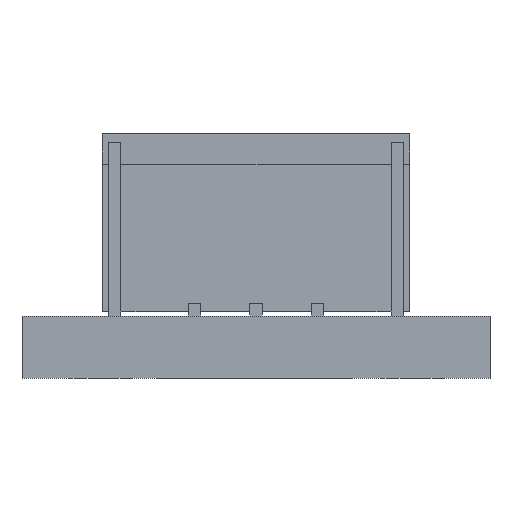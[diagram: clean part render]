
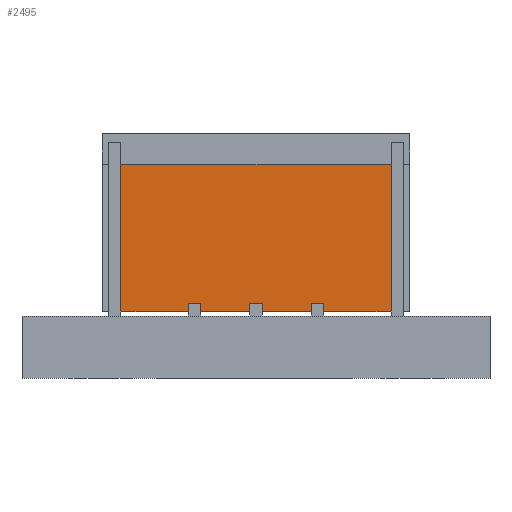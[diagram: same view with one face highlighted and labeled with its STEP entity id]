
A CAD part, front view. The second image highlights one B-rep face of the part: STEP entity #2495.
In plain terms, the highlighted planar face has unit normal (0, -1, 0).
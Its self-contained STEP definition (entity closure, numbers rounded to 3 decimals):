
#893 = CARTESIAN_POINT ( 'NONE',  ( 4.91, 5.368, 1.216 ) ) ;
#955 = CARTESIAN_POINT ( 'NONE',  ( 4.71, 5.368, 1.086 ) ) ;
#996 = CARTESIAN_POINT ( 'NONE',  ( 2.91, 5.368, 1.086 ) ) ;
#1133 = DIRECTION ( 'NONE',  ( 0., 0., -1. ) ) ;
#1411 = EDGE_CURVE ( 'NONE', #24887, #8399, #17609, .T. ) ;
#1680 = VERTEX_POINT ( 'NONE', #16504 ) ;
#1856 = VERTEX_POINT ( 'NONE', #7402 ) ;
#2303 = CARTESIAN_POINT ( 'NONE',  ( 2.71, 5.368, 1.086 ) ) ;
#2373 = CARTESIAN_POINT ( 'NONE',  ( 6.31, 5.368, 1.086 ) ) ;
#2406 = VERTEX_POINT ( 'NONE', #15395 ) ;
#2495 = ADVANCED_FACE ( 'NONE', ( #6924 ), #15676, .F. ) ;
#2551 = VECTOR ( 'NONE', #17227, 1000. ) ;
#2694 = CARTESIAN_POINT ( 'NONE',  ( 2.91, 5.368, 1.216 ) ) ;
#2968 = VERTEX_POINT ( 'NONE', #19919 ) ;
#3129 = CARTESIAN_POINT ( 'NONE',  ( 2.91, 5.368, 1.086 ) ) ;
#3303 = CARTESIAN_POINT ( 'NONE',  ( 3.91, 5.368, 1.216 ) ) ;
#3665 = ORIENTED_EDGE ( 'NONE', *, *, #1411, .F. ) ;
#3688 = CARTESIAN_POINT ( 'NONE',  ( 6.01, 5.368, 1.086 ) ) ;
#3821 = EDGE_CURVE ( 'NONE', #25372, #4529, #17507, .T. ) ;
#3884 = EDGE_CURVE ( 'NONE', #2406, #10162, #23652, .T. ) ;
#4529 = VERTEX_POINT ( 'NONE', #26048 ) ;
#4614 = ORIENTED_EDGE ( 'NONE', *, *, #8134, .T. ) ;
#4762 = ORIENTED_EDGE ( 'NONE', *, *, #3821, .T. ) ;
#5347 = VECTOR ( 'NONE', #11572, 1000. ) ;
#6003 = CARTESIAN_POINT ( 'NONE',  ( 4.91, 5.368, 1.216 ) ) ;
#6203 = EDGE_CURVE ( 'NONE', #8360, #1680, #27227, .T. ) ;
#6924 = FACE_OUTER_BOUND ( 'NONE', #18415, .T. ) ;
#7402 = CARTESIAN_POINT ( 'NONE',  ( 1.61, 5.368, 1.086 ) ) ;
#7482 = LINE ( 'NONE', #955, #25348 ) ;
#8069 = VECTOR ( 'NONE', #15506, 1000. ) ;
#8134 = EDGE_CURVE ( 'NONE', #24887, #2406, #26715, .T. ) ;
#8222 = ORIENTED_EDGE ( 'NONE', *, *, #27800, .T. ) ;
#8360 = VERTEX_POINT ( 'NONE', #15714 ) ;
#8399 = VERTEX_POINT ( 'NONE', #24280 ) ;
#8675 = EDGE_CURVE ( 'NONE', #1856, #19700, #13610, .T. ) ;
#9058 = EDGE_CURVE ( 'NONE', #2968, #1856, #12258, .T. ) ;
#9155 = ORIENTED_EDGE ( 'NONE', *, *, #12616, .F. ) ;
#9240 = VECTOR ( 'NONE', #11941, 1000. ) ;
#9248 = CARTESIAN_POINT ( 'NONE',  ( 2.71, 5.368, 1.216 ) ) ;
#9624 = DIRECTION ( 'NONE',  ( 0., 0., -1. ) ) ;
#9747 = DIRECTION ( 'NONE',  ( 0., 0., -1. ) ) ;
#9844 = VECTOR ( 'NONE', #1133, 1000. ) ;
#9845 = CARTESIAN_POINT ( 'NONE',  ( 4.91, 5.368, 1.086 ) ) ;
#9847 = LINE ( 'NONE', #893, #21037 ) ;
#9866 = VECTOR ( 'NONE', #24173, 1000. ) ;
#10162 = VERTEX_POINT ( 'NONE', #21030 ) ;
#10164 = DIRECTION ( 'NONE',  ( 1., 0., 0. ) ) ;
#10640 = VERTEX_POINT ( 'NONE', #6003 ) ;
#11572 = DIRECTION ( 'NONE',  ( 1., 0., 0. ) ) ;
#11627 = LINE ( 'NONE', #20373, #13916 ) ;
#11706 = ORIENTED_EDGE ( 'NONE', *, *, #23392, .T. ) ;
#11941 = DIRECTION ( 'NONE',  ( 0., 0., -1. ) ) ;
#12258 = LINE ( 'NONE', #20982, #14546 ) ;
#12476 = ORIENTED_EDGE ( 'NONE', *, *, #18512, .T. ) ;
#12492 = DIRECTION ( 'NONE',  ( 0., 0., -1. ) ) ;
#12616 = EDGE_CURVE ( 'NONE', #28134, #16706, #13269, .T. ) ;
#13269 = LINE ( 'NONE', #2694, #16117 ) ;
#13339 = CARTESIAN_POINT ( 'NONE',  ( 6.31, 5.368, 1.086 ) ) ;
#13411 = DIRECTION ( 'NONE',  ( -1., 0., 0. ) ) ;
#13565 = CARTESIAN_POINT ( 'NONE',  ( 4.71, 5.368, 1.216 ) ) ;
#13610 = LINE ( 'NONE', #22338, #5347 ) ;
#13825 = CARTESIAN_POINT ( 'NONE',  ( 3.71, 5.368, 1.086 ) ) ;
#13916 = VECTOR ( 'NONE', #19383, 1000. ) ;
#14306 = ORIENTED_EDGE ( 'NONE', *, *, #22441, .F. ) ;
#14546 = VECTOR ( 'NONE', #25545, 1000. ) ;
#14910 = ORIENTED_EDGE ( 'NONE', *, *, #3884, .T. ) ;
#15071 = DIRECTION ( 'NONE',  ( 1., 0., 0. ) ) ;
#15161 = VERTEX_POINT ( 'NONE', #9845 ) ;
#15395 = CARTESIAN_POINT ( 'NONE',  ( 3.91, 5.368, 1.086 ) ) ;
#15444 = VECTOR ( 'NONE', #15071, 1000. ) ;
#15506 = DIRECTION ( 'NONE',  ( 1., 0., 0. ) ) ;
#15525 = EDGE_CURVE ( 'NONE', #28134, #25372, #26838, .T. ) ;
#15676 = PLANE ( 'NONE',  #19007 ) ;
#15714 = CARTESIAN_POINT ( 'NONE',  ( 6.01, 5.368, 3.486 ) ) ;
#16018 = VECTOR ( 'NONE', #10164, 1000. ) ;
#16117 = VECTOR ( 'NONE', #13411, 1000. ) ;
#16499 = ORIENTED_EDGE ( 'NONE', *, *, #28007, .F. ) ;
#16504 = CARTESIAN_POINT ( 'NONE',  ( 6.01, 5.368, 1.086 ) ) ;
#16706 = VERTEX_POINT ( 'NONE', #9248 ) ;
#16806 = VERTEX_POINT ( 'NONE', #13565 ) ;
#17200 = LINE ( 'NONE', #25609, #16018 ) ;
#17227 = DIRECTION ( 'NONE',  ( 0., 0., -1. ) ) ;
#17365 = CARTESIAN_POINT ( 'NONE',  ( 2.71, 5.368, 1.086 ) ) ;
#17507 = LINE ( 'NONE', #2373, #8069 ) ;
#17609 = LINE ( 'NONE', #26304, #9866 ) ;
#17809 = LINE ( 'NONE', #25944, #23294 ) ;
#18199 = DIRECTION ( 'NONE',  ( -1., 0., 0. ) ) ;
#18415 = EDGE_LOOP ( 'NONE', ( #16499, #11706, #8222, #24381, #12476, #21306, #18653, #14306, #9155, #24165, #4762, #21449, #3665, #4614, #14910, #26258 ) ) ;
#18425 = EDGE_CURVE ( 'NONE', #16806, #10162, #7482, .T. ) ;
#18512 = EDGE_CURVE ( 'NONE', #8360, #2968, #11627, .T. ) ;
#18653 = ORIENTED_EDGE ( 'NONE', *, *, #8675, .T. ) ;
#19007 = AXIS2_PLACEMENT_3D ( 'NONE', #24520, #20507, #9747 ) ;
#19383 = DIRECTION ( 'NONE',  ( -1., 0., 0. ) ) ;
#19700 = VERTEX_POINT ( 'NONE', #2303 ) ;
#19778 = EDGE_CURVE ( 'NONE', #8399, #4529, #20682, .T. ) ;
#19919 = CARTESIAN_POINT ( 'NONE',  ( 1.61, 5.368, 3.486 ) ) ;
#20373 = CARTESIAN_POINT ( 'NONE',  ( 6.31, 5.368, 3.486 ) ) ;
#20507 = DIRECTION ( 'NONE',  ( 0., 1., 0. ) ) ;
#20682 = LINE ( 'NONE', #13825, #9240 ) ;
#20982 = CARTESIAN_POINT ( 'NONE',  ( 1.61, 5.368, 1.086 ) ) ;
#21030 = CARTESIAN_POINT ( 'NONE',  ( 4.71, 5.368, 1.086 ) ) ;
#21037 = VECTOR ( 'NONE', #18199, 1000. ) ;
#21306 = ORIENTED_EDGE ( 'NONE', *, *, #9058, .T. ) ;
#21449 = ORIENTED_EDGE ( 'NONE', *, *, #19778, .F. ) ;
#21520 = DIRECTION ( 'NONE',  ( 0., 0., -1. ) ) ;
#21566 = VECTOR ( 'NONE', #12492, 1000. ) ;
#21645 = LINE ( 'NONE', #17365, #2551 ) ;
#22169 = DIRECTION ( 'NONE',  ( 0., 0., -1. ) ) ;
#22320 = CARTESIAN_POINT ( 'NONE',  ( 3.91, 5.368, 1.086 ) ) ;
#22338 = CARTESIAN_POINT ( 'NONE',  ( 6.31, 5.368, 1.086 ) ) ;
#22441 = EDGE_CURVE ( 'NONE', #16706, #19700, #21645, .T. ) ;
#23294 = VECTOR ( 'NONE', #21520, 1000. ) ;
#23392 = EDGE_CURVE ( 'NONE', #10640, #15161, #17809, .T. ) ;
#23652 = LINE ( 'NONE', #13339, #15444 ) ;
#24114 = VECTOR ( 'NONE', #22169, 1000. ) ;
#24165 = ORIENTED_EDGE ( 'NONE', *, *, #15525, .T. ) ;
#24173 = DIRECTION ( 'NONE',  ( -1., 0., 0. ) ) ;
#24280 = CARTESIAN_POINT ( 'NONE',  ( 3.71, 5.368, 1.216 ) ) ;
#24381 = ORIENTED_EDGE ( 'NONE', *, *, #6203, .F. ) ;
#24520 = CARTESIAN_POINT ( 'NONE',  ( 6.31, 5.368, 3.986 ) ) ;
#24887 = VERTEX_POINT ( 'NONE', #3303 ) ;
#25348 = VECTOR ( 'NONE', #9624, 1000. ) ;
#25372 = VERTEX_POINT ( 'NONE', #996 ) ;
#25545 = DIRECTION ( 'NONE',  ( 0., 0., -1. ) ) ;
#25609 = CARTESIAN_POINT ( 'NONE',  ( 6.31, 5.368, 1.086 ) ) ;
#25944 = CARTESIAN_POINT ( 'NONE',  ( 4.91, 5.368, 1.086 ) ) ;
#26048 = CARTESIAN_POINT ( 'NONE',  ( 3.71, 5.368, 1.086 ) ) ;
#26258 = ORIENTED_EDGE ( 'NONE', *, *, #18425, .F. ) ;
#26304 = CARTESIAN_POINT ( 'NONE',  ( 3.91, 5.368, 1.216 ) ) ;
#26715 = LINE ( 'NONE', #22320, #24114 ) ;
#26838 = LINE ( 'NONE', #3129, #9844 ) ;
#27227 = LINE ( 'NONE', #3688, #21566 ) ;
#27429 = CARTESIAN_POINT ( 'NONE',  ( 2.91, 5.368, 1.216 ) ) ;
#27800 = EDGE_CURVE ( 'NONE', #15161, #1680, #17200, .T. ) ;
#28007 = EDGE_CURVE ( 'NONE', #10640, #16806, #9847, .T. ) ;
#28134 = VERTEX_POINT ( 'NONE', #27429 ) ;
